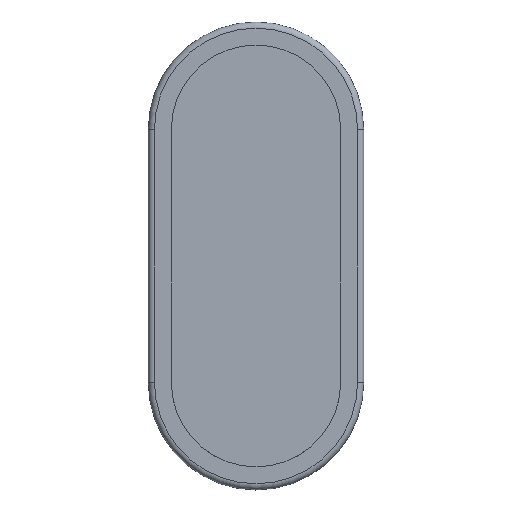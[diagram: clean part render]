
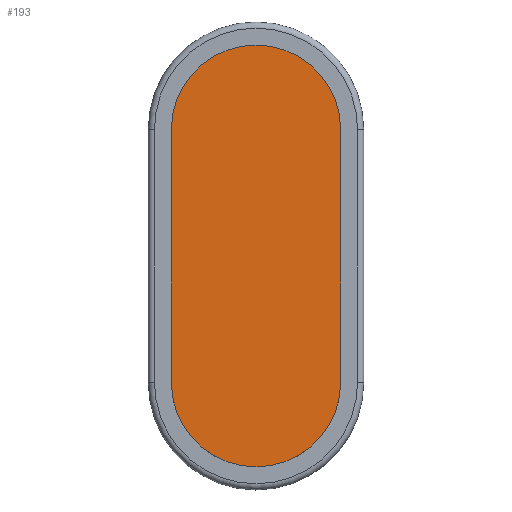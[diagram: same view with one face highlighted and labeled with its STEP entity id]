
A CAD part, top view. The second image highlights one B-rep face of the part: STEP entity #193.
In plain terms, the highlighted planar face has unit normal (0, 0, 1).
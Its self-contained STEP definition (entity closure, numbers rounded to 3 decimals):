
#193=ADVANCED_FACE('',(#383),#385,.T.);
#383=FACE_BOUND('',#384,.T.);
#384=EDGE_LOOP('',(#514,#515,#516,#517));
#385=PLANE('',#386);
#386=AXIS2_PLACEMENT_3D('',#387,#388,#389);
#387=CARTESIAN_POINT('',(0.,0.,0.9));
#388=DIRECTION('',(0.,0.,1.));
#389=DIRECTION('',(1.,0.,0.));
#514=ORIENTED_EDGE('',*,*,#587,.T.);
#515=ORIENTED_EDGE('',*,*,#593,.T.);
#516=ORIENTED_EDGE('',*,*,#591,.T.);
#517=ORIENTED_EDGE('',*,*,#589,.T.);
#587=EDGE_CURVE('',#668,#666,#669,.T.);
#589=EDGE_CURVE('',#671,#668,#672,.T.);
#591=EDGE_CURVE('',#674,#671,#675,.T.);
#593=EDGE_CURVE('',#666,#674,#677,.T.);
#666=VERTEX_POINT('',#836);
#668=VERTEX_POINT('',#840);
#669=CIRCLE('',#841,2.75);
#671=VERTEX_POINT('',#848);
#672=LINE('',#849,#850);
#674=VERTEX_POINT('',#855);
#675=CIRCLE('',#856,2.75);
#677=LINE('',#863,#864);
#836=CARTESIAN_POINT('',(2.75,-4.1,0.9));
#840=CARTESIAN_POINT('',(-2.75,-4.1,0.9));
#841=AXIS2_PLACEMENT_3D('',#842,#843,#844);
#842=CARTESIAN_POINT('',(0.,-4.1,0.9));
#843=DIRECTION('',(0.,0.,1.));
#844=DIRECTION('',(-1.,0.,0.));
#848=CARTESIAN_POINT('',(-2.75,4.1,0.9));
#849=CARTESIAN_POINT('',(-2.75,4.1,0.9));
#850=VECTOR('',#851,1.);
#851=DIRECTION('',(0.,-1.,0.));
#855=CARTESIAN_POINT('',(2.75,4.1,0.9));
#856=AXIS2_PLACEMENT_3D('',#857,#858,#859);
#857=CARTESIAN_POINT('',(0.,4.1,0.9));
#858=DIRECTION('',(0.,0.,1.));
#859=DIRECTION('',(1.,0.,0.));
#863=CARTESIAN_POINT('',(2.75,-4.1,0.9));
#864=VECTOR('',#865,1.);
#865=DIRECTION('',(0.,1.,0.));
